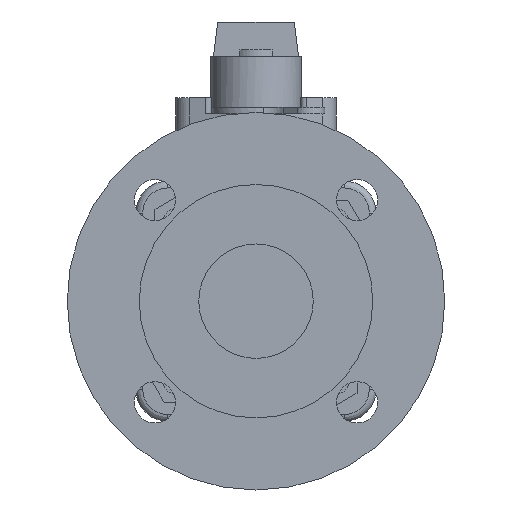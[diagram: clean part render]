
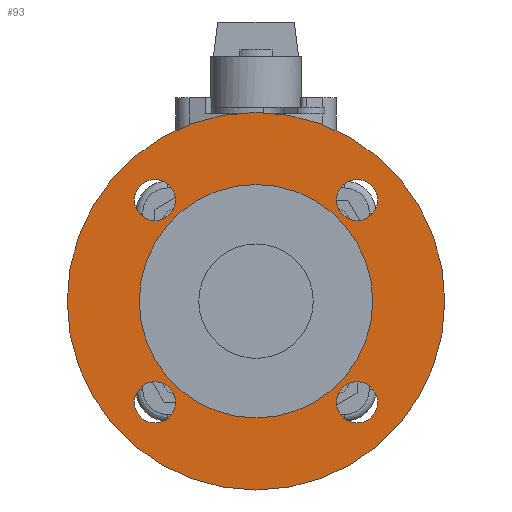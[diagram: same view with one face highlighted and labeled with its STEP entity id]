
A CAD part, left-side view. The second image highlights one B-rep face of the part: STEP entity #93.
In plain terms, the highlighted planar face has unit normal (-1, 0, 0).
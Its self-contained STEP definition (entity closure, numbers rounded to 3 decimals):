
#93=ADVANCED_FACE('',(#485,#486,#487,#488,#489,#490),#484,.T.);
#484=PLANE('',#2634);
#485=FACE_OUTER_BOUND('',#2635,.T.);
#486=FACE_BOUND('',#2636,.T.);
#487=FACE_BOUND('',#2637,.T.);
#488=FACE_BOUND('',#2638,.T.);
#489=FACE_BOUND('',#2639,.T.);
#490=FACE_BOUND('',#2640,.T.);
#2631=CARTESIAN_POINT('',(-115.3,-152.894,-175.));
#2632=DIRECTION('',(-1.,0.,0.));
#2633=DIRECTION('',(0.,0.,1.));
#2634=AXIS2_PLACEMENT_3D('',#2631,#2632,#2633);
#2635=EDGE_LOOP('',(#4197,#4198));
#2636=EDGE_LOOP('',(#4199,#4200));
#2637=EDGE_LOOP('',(#4201,#4202));
#2638=EDGE_LOOP('',(#4203,#4204));
#2639=EDGE_LOOP('',(#4205,#4206));
#2640=EDGE_LOOP('',(#4207,#4208));
#4197=ORIENTED_EDGE('',*,*,#5320,.T.);
#4198=ORIENTED_EDGE('',*,*,#5321,.T.);
#4199=ORIENTED_EDGE('',*,*,#5322,.F.);
#4200=ORIENTED_EDGE('',*,*,#5323,.F.);
#4201=ORIENTED_EDGE('',*,*,#5324,.F.);
#4202=ORIENTED_EDGE('',*,*,#5325,.F.);
#4203=ORIENTED_EDGE('',*,*,#5326,.F.);
#4204=ORIENTED_EDGE('',*,*,#5327,.F.);
#4205=ORIENTED_EDGE('',*,*,#5328,.F.);
#4206=ORIENTED_EDGE('',*,*,#5329,.F.);
#4207=ORIENTED_EDGE('',*,*,#5330,.F.);
#4208=ORIENTED_EDGE('',*,*,#5331,.F.);
#5320=EDGE_CURVE('',#6678,#6679,#6680,.T.);
#5321=EDGE_CURVE('',#6679,#6678,#6686,.T.);
#5322=EDGE_CURVE('',#6692,#6693,#6694,.T.);
#5323=EDGE_CURVE('',#6693,#6692,#6700,.T.);
#5324=EDGE_CURVE('',#6706,#6707,#6708,.T.);
#5325=EDGE_CURVE('',#6707,#6706,#6714,.T.);
#5326=EDGE_CURVE('',#6720,#6721,#6722,.T.);
#5327=EDGE_CURVE('',#6721,#6720,#6728,.T.);
#5328=EDGE_CURVE('',#6734,#6735,#6736,.T.);
#5329=EDGE_CURVE('',#6735,#6734,#6742,.T.);
#5330=EDGE_CURVE('',#6748,#6749,#6750,.T.);
#5331=EDGE_CURVE('',#6749,#6748,#6756,.T.);
#6678=VERTEX_POINT('',#10141);
#6679=VERTEX_POINT('',#10142);
#6680=CIRCLE('',#10146,82.5);
#6686=CIRCLE('',#10150,82.5);
#6692=VERTEX_POINT('',#10151);
#6693=VERTEX_POINT('',#10152);
#6694=CIRCLE('',#10156,51.);
#6700=CIRCLE('',#10160,51.);
#6706=VERTEX_POINT('',#10161);
#6707=VERTEX_POINT('',#10162);
#6708=CIRCLE('',#10166,9.);
#6714=CIRCLE('',#10170,9.);
#6720=VERTEX_POINT('',#10171);
#6721=VERTEX_POINT('',#10172);
#6722=CIRCLE('',#10176,9.);
#6728=CIRCLE('',#10180,9.);
#6734=VERTEX_POINT('',#10181);
#6735=VERTEX_POINT('',#10182);
#6736=CIRCLE('',#10186,9.);
#6742=CIRCLE('',#10190,9.);
#6748=VERTEX_POINT('',#10191);
#6749=VERTEX_POINT('',#10192);
#6750=CIRCLE('',#10196,9.);
#6756=CIRCLE('',#10200,9.);
#10141=CARTESIAN_POINT('',(-115.3,0.,82.5));
#10142=CARTESIAN_POINT('',(-115.3,0.,-82.5));
#10143=CARTESIAN_POINT('',(-115.3,0.,0.));
#10144=DIRECTION('',(-1.,0.,0.));
#10145=DIRECTION('',(0.,0.,1.));
#10146=AXIS2_PLACEMENT_3D('',#10143,#10144,#10145);
#10147=CARTESIAN_POINT('',(-115.3,0.,0.));
#10148=DIRECTION('',(-1.,0.,0.));
#10149=DIRECTION('',(0.,0.,1.));
#10150=AXIS2_PLACEMENT_3D('',#10147,#10148,#10149);
#10151=CARTESIAN_POINT('',(-115.3,0.,-51.));
#10152=CARTESIAN_POINT('',(-115.3,0.,51.));
#10153=CARTESIAN_POINT('',(-115.3,0.,0.));
#10154=DIRECTION('',(-1.,0.,0.));
#10155=DIRECTION('',(0.,0.,1.));
#10156=AXIS2_PLACEMENT_3D('',#10153,#10154,#10155);
#10157=CARTESIAN_POINT('',(-115.3,0.,0.));
#10158=DIRECTION('',(-1.,0.,0.));
#10159=DIRECTION('',(0.,0.,1.));
#10160=AXIS2_PLACEMENT_3D('',#10157,#10158,#10159);
#10161=CARTESIAN_POINT('',(-115.3,44.194,35.194));
#10162=CARTESIAN_POINT('',(-115.3,44.194,53.194));
#10163=CARTESIAN_POINT('',(-115.3,44.194,44.194));
#10164=DIRECTION('',(-1.,0.,0.));
#10165=DIRECTION('',(0.,0.,1.));
#10166=AXIS2_PLACEMENT_3D('',#10163,#10164,#10165);
#10167=CARTESIAN_POINT('',(-115.3,44.194,44.194));
#10168=DIRECTION('',(-1.,0.,0.));
#10169=DIRECTION('',(0.,0.,1.));
#10170=AXIS2_PLACEMENT_3D('',#10167,#10168,#10169);
#10171=CARTESIAN_POINT('',(-115.3,-44.194,53.194));
#10172=CARTESIAN_POINT('',(-115.3,-44.194,35.194));
#10173=CARTESIAN_POINT('',(-115.3,-44.194,44.194));
#10174=DIRECTION('',(-1.,0.,0.));
#10175=DIRECTION('',(0.,0.,-1.));
#10176=AXIS2_PLACEMENT_3D('',#10173,#10174,#10175);
#10177=CARTESIAN_POINT('',(-115.3,-44.194,44.194));
#10178=DIRECTION('',(-1.,0.,0.));
#10179=DIRECTION('',(0.,0.,-1.));
#10180=AXIS2_PLACEMENT_3D('',#10177,#10178,#10179);
#10181=CARTESIAN_POINT('',(-115.3,-44.194,-53.194));
#10182=CARTESIAN_POINT('',(-115.3,-44.194,-35.194));
#10183=CARTESIAN_POINT('',(-115.3,-44.194,-44.194));
#10184=DIRECTION('',(-1.,0.,0.));
#10185=DIRECTION('',(0.,0.,1.));
#10186=AXIS2_PLACEMENT_3D('',#10183,#10184,#10185);
#10187=CARTESIAN_POINT('',(-115.3,-44.194,-44.194));
#10188=DIRECTION('',(-1.,0.,0.));
#10189=DIRECTION('',(0.,0.,1.));
#10190=AXIS2_PLACEMENT_3D('',#10187,#10188,#10189);
#10191=CARTESIAN_POINT('',(-115.3,44.194,-35.194));
#10192=CARTESIAN_POINT('',(-115.3,44.194,-53.194));
#10193=CARTESIAN_POINT('',(-115.3,44.194,-44.194));
#10194=DIRECTION('',(-1.,0.,0.));
#10195=DIRECTION('',(0.,0.,-1.));
#10196=AXIS2_PLACEMENT_3D('',#10193,#10194,#10195);
#10197=CARTESIAN_POINT('',(-115.3,44.194,-44.194));
#10198=DIRECTION('',(-1.,0.,0.));
#10199=DIRECTION('',(0.,0.,-1.));
#10200=AXIS2_PLACEMENT_3D('',#10197,#10198,#10199);
